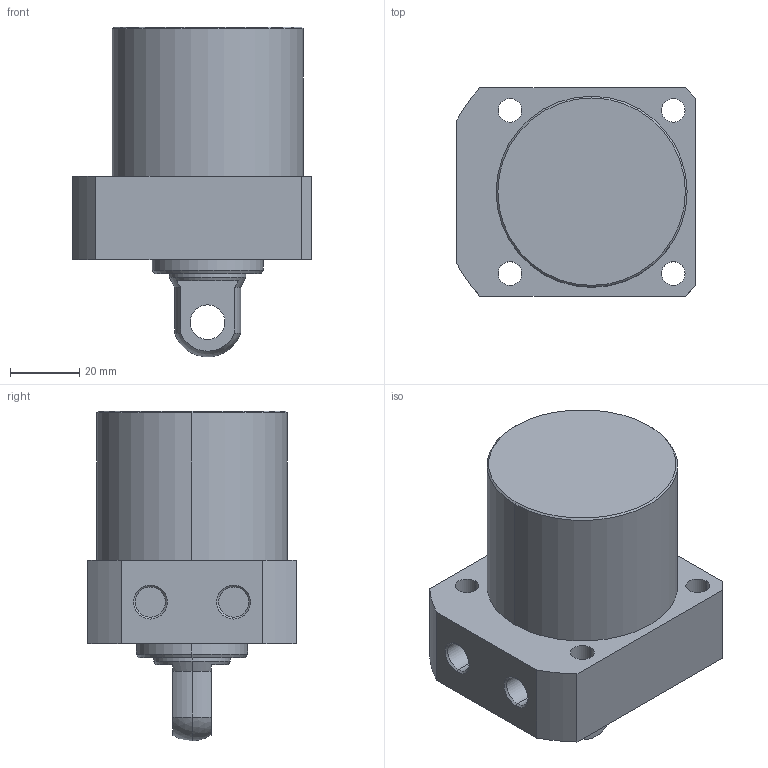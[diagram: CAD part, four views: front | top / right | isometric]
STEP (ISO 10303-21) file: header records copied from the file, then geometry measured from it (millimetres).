
FILE_DESCRIPTION (( 'STEP AP203' ), '1' );
FILE_NAME ('CLLR-055CP-030.STEP', '2019-12-19T08:20:51', ( '' ), ( '' ), 'SwSTEP 2.0', 'SolidWorks 2015', '' );
FILE_SCHEMA (( 'CONFIG_CONTROL_DESIGN' ));
Length unit declared in the file: millimetre
Products named in the file (1): CLLR-055CP-030
Bounding box: 69 x 60 x 95 mm (x, y, z)
Volume: 201409.9 mm3; surface area: 25707.8 mm2
Topology: 1 solids, 1 shells, 59 faces, 139 edges, 89 vertices
Faces by surface type: cylinder 29, plane 18, cone 10, sphere 2
Entity records: 1820 total; most frequent: DIRECTION 329, CARTESIAN_POINT 300, ORIENTED_EDGE 278, EDGE_CURVE 139, AXIS2_PLACEMENT_3D 134, VERTEX_POINT 89, EDGE_LOOP 76, CIRCLE 74
